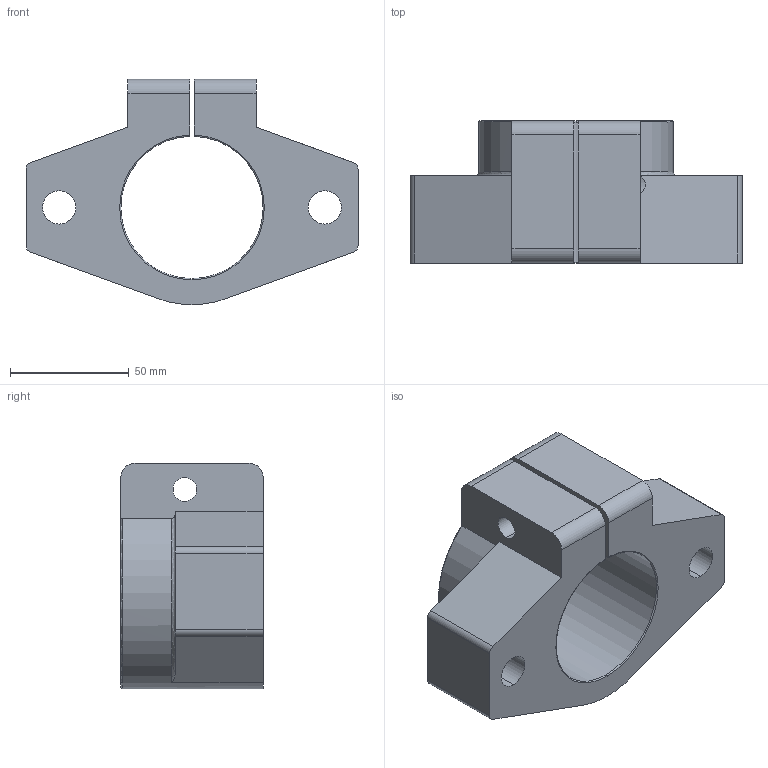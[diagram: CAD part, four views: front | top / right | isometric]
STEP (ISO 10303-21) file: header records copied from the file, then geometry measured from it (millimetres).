
FILE_DESCRIPTION (( 'STEP AP214' ), '1' );
FILE_NAME ('2.7129 Akselin päätykiinnike SHF60.STEP', '2024-06-06T06:27:31', ( '' ), ( '' ), 'SwSTEP 2.0', 'SolidWorks 2024', '' );
FILE_SCHEMA (( 'AUTOMOTIVE_DESIGN' ));
Length unit declared in the file: millimetre
Products named in the file (1): 2.7129 Akselin päätykiinnike SHF60
Bounding box: 140 x 60 x 95 mm (x, y, z)
Volume: 302383.3 mm3; surface area: 52333.2 mm2
Topology: 1 solids, 1 shells, 44 faces, 125 edges, 83 vertices
Faces by surface type: cylinder 20, plane 16, torus 8
Entity records: 1672 total; most frequent: CARTESIAN_POINT 454, DIRECTION 258, ORIENTED_EDGE 250, EDGE_CURVE 125, AXIS2_PLACEMENT_3D 99, VERTEX_POINT 83, VECTOR 60, LINE 60
